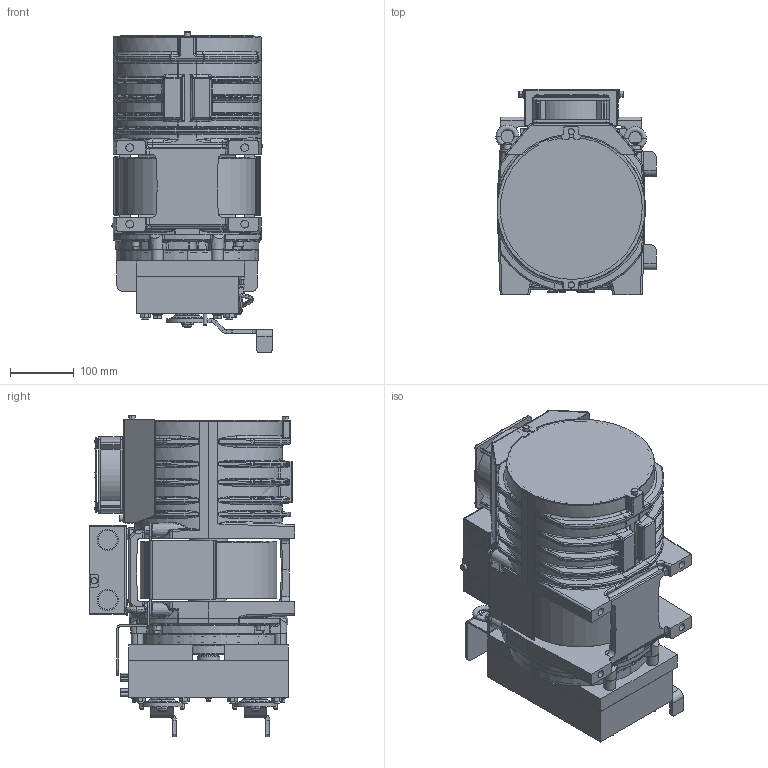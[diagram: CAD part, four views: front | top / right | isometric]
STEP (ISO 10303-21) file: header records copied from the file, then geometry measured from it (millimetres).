
FILE_DESCRIPTION((''),'2;1');
FILE_NAME('00347963_SW0001','2020-01-16T',('furlanis'),('Sicor spa'),'CREO PARAMETRIC BY PTC INC, 2017170','CREO PARAMETRIC BY PTC INC, 2017170','');
FILE_SCHEMA(('CONFIG_CONTROL_DESIGN'));
Products named in the file (1): 00347963_SW0001
Bounding box: 251 x 322 x 503.02 mm (x, y, z)
Surface area: 1620495.1 mm2 (no closed solid volume)
Topology: 0 solids, 287 shells, 3361 faces, 11436 edges, 8063 vertices
Faces by surface type: plane 1452, cylinder 778, bspline 608, torus 284, cone 195, sphere 44
Entity records: 177479 total; most frequent: CARTESIAN_POINT 85291, DIRECTION 18192, ORIENTED_EDGE 17967, EDGE_CURVE 11410, VERTEX_POINT 8063, VECTOR 6138, LINE 6138, AXIS2_PLACEMENT_3D 6027
